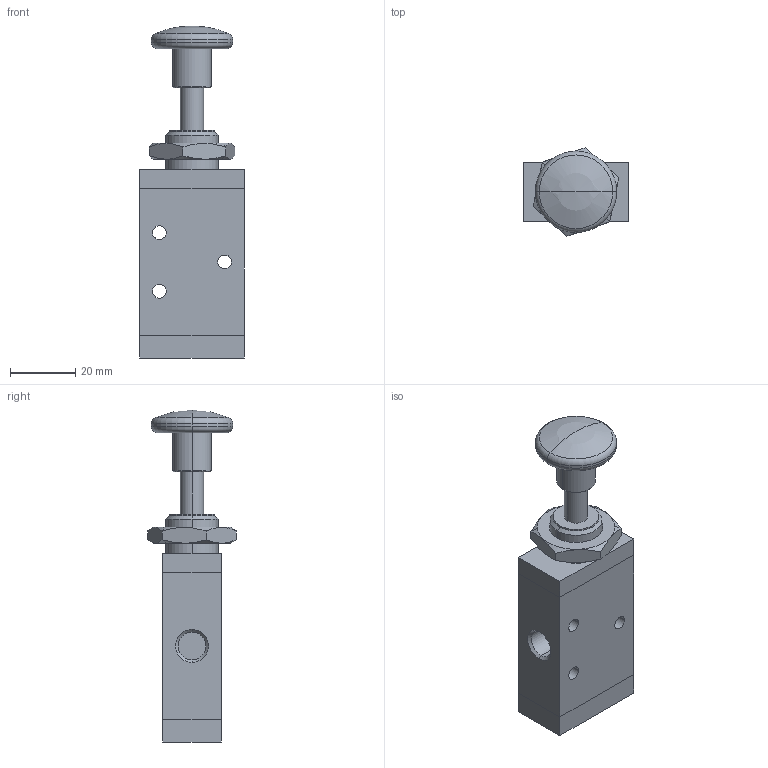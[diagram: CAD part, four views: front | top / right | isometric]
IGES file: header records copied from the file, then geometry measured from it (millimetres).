
Global section: file name: No Iges File Name specified; native system: AutoDesk Inventor R11.0; preprocessor: AutoDesk Inventor Iges Exporter R11.0; author: No Author specified; organization: No Organization specified; date: 20061219.113927; units: millimetre
Bounding box: 32 x 27.14 x 102 mm (x, y, z)
Volume: 39643.6 mm3; surface area: 11889.2 mm2
Topology: 2 solids, 2 shells, 78 faces, 172 edges, 105 vertices
Faces by surface type: plane 27, bspline 21, cylinder 10, revolution 8, cone 6, torus 4, sphere 2
